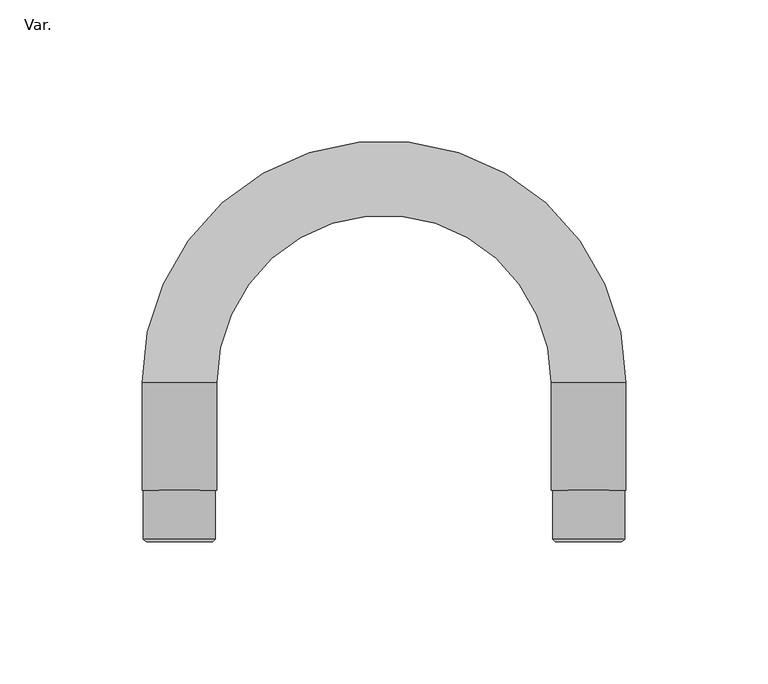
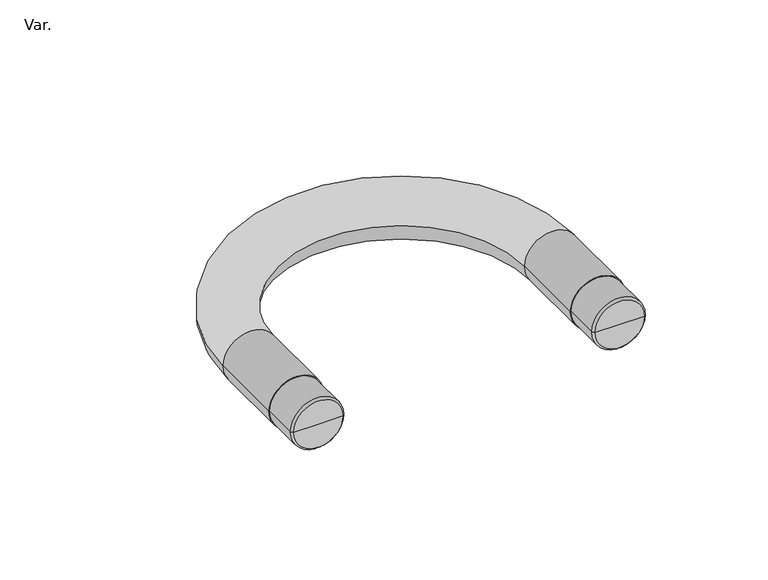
"""IFC4 building model written with IfcOpenShell, lengths in millimetres: pipe fitting geometry, AmancoWavin_ConexõesdoConduite_LinhaEletricaRoscavelCurva180 : Var.."""

from ifc_helpers import new_model, si_unit, point, frame, origin, place, context, project, spatial, polyline, circle_curve, ellipse_curve, trimmed, source, transform, mapped, element, save
from ifc_brep_helpers import plane_surface, cylinder_surface, revolved_surface, advanced_brep


def var_cd2047e7(model_context):
    return source(origin(), model_context, "Body", "AdvancedBrep", [
        advanced_brep(
        [(60.3, 0.0, 0.0), (83.7, 0.0, 0.0), (72.0, 0.0, 0.0), (59.3, 1.0, 0.0), (84.7, 1.0, 0.0), (59.3, 18.1, 0.0), (84.7, 18.1, 0.0), (72.0, 18.1, 0.0)],
        [
            (0, 1, circle_curve(frame((72.0, 0.0, 0.0), z_axis=(0.0, -1.0, 0.0), x_axis=(1.0, 0.0, 0.0)), 11.7)),
            (1, 2),
            (2, 0),
            (1, 0, circle_curve(frame((72.0, 0.0, 0.0), z_axis=(0.0, -1.0, 0.0), x_axis=(1.0, 0.0, 0.0)), 11.7)),
            (3, 4, circle_curve(frame((72.0, 1.0, 0.0), z_axis=(0.0, -1.0, 0.0), x_axis=(1.0, 0.0, 0.0)), 12.7)),
            (4, 1),
            (0, 3),
            (4, 3, circle_curve(frame((72.0, 1.0, 0.0), z_axis=(0.0, -1.0, 0.0), x_axis=(1.0, 0.0, 0.0)), 12.7)),
            (5, 6, circle_curve(frame((72.0, 18.1, 0.0), z_axis=(0.0, -1.0, 0.0), x_axis=(1.0, 0.0, 0.0)), 12.7)),
            (6, 4),
            (3, 5),
            (6, 5, circle_curve(frame((72.0, 18.1, 0.0), z_axis=(0.0, -1.0, 0.0), x_axis=(1.0, 0.0, 0.0)), 12.7)),
            (7, 6),
            (5, 7),
        ],
        [
            plane_surface(frame((72.0, 0.0, 0.0), z_axis=(0.0, -1.0, 0.0), x_axis=(1.0, 0.0, 0.0))),
            revolved_surface(polyline([(83.7, 0.0, 0.0), (84.7, 1.0, 0.0)]), (72.0, 0.0, 0.0), (0.0, 1.0, 0.0)),
            cylinder_surface(frame((72.0, 0.0, 0.0), z_axis=(0.0, 1.0, 0.0), x_axis=(1.0, 0.0, 0.0)), 12.7),
            plane_surface(frame((72.0, 18.1, 0.0), z_axis=(0.0, 1.0, 0.0), x_axis=(1.0, 0.0, 0.0))),
        ],
        [
            (0, [[1, 2, 3]]),
            (0, [[4, -3, -2]]),
            (1, [[5, 6, -1, 7]]),
            (1, [[8, -7, -4, -6]]),
            (2, [[9, 10, -5, 11]]),
            (2, [[12, -11, -8, -10]]),
            (3, [[13, -9, 14]]),
            (3, [[-14, -12, -13]]),
        ],
    ),
        advanced_brep(
        [(-83.7, 0.0, 0.0), (-60.3, 0.0, 0.0), (-72.0, 0.0, 0.0), (-84.7, 1.0, 0.0), (-59.3, 1.0, 0.0), (-84.7, 18.1, 0.0), (-59.3, 18.1, 0.0), (-72.0, 18.1, 0.0)],
        [
            (0, 1, circle_curve(frame((-72.0, 0.0, 0.0), z_axis=(0.0, -1.0, 0.0), x_axis=(1.0, 0.0, 0.0)), 11.7)),
            (1, 2),
            (2, 0),
            (1, 0, circle_curve(frame((-72.0, 0.0, 0.0), z_axis=(0.0, -1.0, 0.0), x_axis=(1.0, 0.0, 0.0)), 11.7)),
            (3, 4, circle_curve(frame((-72.0, 1.0, 0.0), z_axis=(0.0, -1.0, 0.0), x_axis=(1.0, 0.0, 0.0)), 12.7)),
            (4, 1),
            (0, 3),
            (4, 3, circle_curve(frame((-72.0, 1.0, 0.0), z_axis=(0.0, -1.0, 0.0), x_axis=(1.0, 0.0, 0.0)), 12.7)),
            (5, 6, circle_curve(frame((-72.0, 18.1, 0.0), z_axis=(0.0, -1.0, 0.0), x_axis=(1.0, 0.0, 0.0)), 12.7)),
            (6, 4),
            (3, 5),
            (6, 5, circle_curve(frame((-72.0, 18.1, 0.0), z_axis=(0.0, -1.0, 0.0), x_axis=(1.0, 0.0, 0.0)), 12.7)),
            (7, 6),
            (5, 7),
        ],
        [
            plane_surface(frame((-72.0, 0.0, 0.0), z_axis=(0.0, -1.0, 0.0), x_axis=(1.0, 0.0, 0.0))),
            revolved_surface(polyline([(-60.3, 0.0, 0.0), (-59.3, 1.0, 0.0)]), (-72.0, 0.0, 0.0), (0.0, 1.0, 0.0)),
            cylinder_surface(frame((-72.0, 0.0, 0.0), z_axis=(0.0, 1.0, 0.0), x_axis=(1.0, 0.0, 0.0)), 12.7),
            plane_surface(frame((-72.0, 18.1, 0.0), z_axis=(0.0, 1.0, 0.0), x_axis=(1.0, 0.0, 0.0))),
        ],
        [
            (0, [[1, 2, 3]]),
            (0, [[4, -3, -2]]),
            (1, [[5, 6, -1, 7]]),
            (1, [[8, -7, -4, -6]]),
            (2, [[9, 10, -5, 11]]),
            (2, [[12, -11, -8, -10]]),
            (3, [[13, -9, 14]]),
            (3, [[-14, -12, -13]]),
        ],
    ),
        advanced_brep(
        [(-58.9, 18.1, 0.0), (-85.1, 18.1, 0.0), (85.1, 18.1, 0.0), (58.9, 18.1, 0.0), (-85.1, 56.0, 0.0), (-58.9, 56.0, 0.0), (58.9, 56.0, 0.0), (85.1, 56.0, 0.0)],
        [
            (0, 1, circle_curve(frame((-72.0, 18.1, 0.0), z_axis=(0.0, -1.0, 0.0), x_axis=(-1.0, 0.0, 0.0)), 13.1)),
            (1, 0, circle_curve(frame((-72.0, 18.1, 0.0), z_axis=(0.0, -1.0, 0.0), x_axis=(-1.0, 0.0, 0.0)), 13.1)),
            (2, 3, circle_curve(frame((72.0, 18.1, 0.0), z_axis=(0.0, -1.0, 0.0), x_axis=(-1.0, 0.0, 0.0)), 13.1)),
            (3, 2, circle_curve(frame((72.0, 18.1, 0.0), z_axis=(0.0, -1.0, 0.0), x_axis=(-1.0, 0.0, 0.0)), 13.1)),
            (1, 4),
            (4, 5, circle_curve(frame((-72.0, 56.0, 0.0), z_axis=(0.0, -1.0, 0.0), x_axis=(-1.0, 0.0, 0.0)), 13.1)),
            (5, 0),
            (5, 4, circle_curve(frame((-72.0, 56.0, 0.0), z_axis=(0.0, -1.0, 0.0), x_axis=(-1.0, 0.0, 0.0)), 13.1)),
            (3, 6),
            (6, 7, circle_curve(frame((72.0, 56.0, 0.0), z_axis=(0.0, -1.0, 0.0), x_axis=(-1.0, 0.0, 0.0)), 13.1)),
            (7, 2),
            (7, 6, circle_curve(frame((72.0, 56.0, 0.0), z_axis=(0.0, -1.0, 0.0), x_axis=(-1.0, 0.0, 0.0)), 13.1)),
            (7, 4, circle_curve(frame((0.0, 56.0, 0.0), z_axis=(0.0, 0.0, 1.0), x_axis=(-1.0, 0.0, 0.0)), 85.1)),
            (5, 6, circle_curve(frame((0.0, 56.0, 0.0), z_axis=(0.0, 0.0, -1.0), x_axis=(-1.0, 0.0, 0.0)), 58.9)),
        ],
        [
            plane_surface(frame((-85.1, 18.1, 0.0), z_axis=(0.0, -1.0, 0.0), x_axis=(0.0, 0.0, -1.0))),
            cylinder_surface(frame((-72.0, 18.1, 0.0), z_axis=(0.0, 1.0, 0.0), x_axis=(-1.0, 0.0, 0.0)), 13.1),
            cylinder_surface(frame((72.0, 0.0, 0.0), z_axis=(0.0, 1.0, 0.0), x_axis=(-1.0, 0.0, 0.0)), 13.1),
            revolved_surface(trimmed(ellipse_curve(frame((-72.0, 56.0, 0.0), z_axis=(0.0, -1.0, 0.0), x_axis=(-1.0, 0.0, 0.0)), 13.1, 13.1), [point((-58.9, 56.0, 0.0))], [point((-85.1, 56.0, 0.0))], True, "CARTESIAN"), (0.0, 56.0, 0.0), (0.0, 0.0, -1.0)),
            revolved_surface(trimmed(ellipse_curve(frame((-72.0, 56.0, 0.0), z_axis=(0.0, -1.0, 0.0), x_axis=(-1.0, 0.0, 0.0)), 13.1, 13.1), [point((-85.1, 56.0, 0.0))], [point((-58.9, 56.0, 0.0))], True, "CARTESIAN"), (0.0, 56.0, 0.0), (0.0, 0.0, -1.0)),
        ],
        [
            (0, [[1, 2]]),
            (0, [[3, 4]]),
            (1, [[-2, 5, 6, 7]]),
            (1, [[-1, -7, 8, -5]]),
            (2, [[-4, 9, 10, 11]]),
            (2, [[-3, -11, 12, -9]]),
            (3, [[13, -8, 14, -12]]),
            (4, [[-13, -10, -14, -6]]),
        ],
    ),
    ])


if __name__ == "__main__":
    model = new_model("IFC4")
    model_context = context("Model", 3, world=origin())
    ifc_project = project(units=[si_unit("LENGTHUNIT", "METRE", prefix="MILLI")], contexts=[model_context])
    site = spatial("IfcSite", under=ifc_project)
    building = spatial("IfcBuilding", under=site)
    placement = place(None, origin())
    var_shape = var_cd2047e7(model_context)
    element("IfcPipeFitting", 1, ObjectType="AmancoWavin_ConexõesdoConduite_LinhaEletricaRoscavelCurva180 : Var.", at=placement, inside=building, context=model_context, shape_type="MappedRepresentation", body=[
        mapped(var_shape, transform((0.0, 0.0, 0.0), x_axis=(1.0, 0.0, 0.0), y_axis=(0.0, 1.0, 0.0), z_axis=(0.0, 0.0, 1.0))),
    ])
    save(model, "model.ifc")
